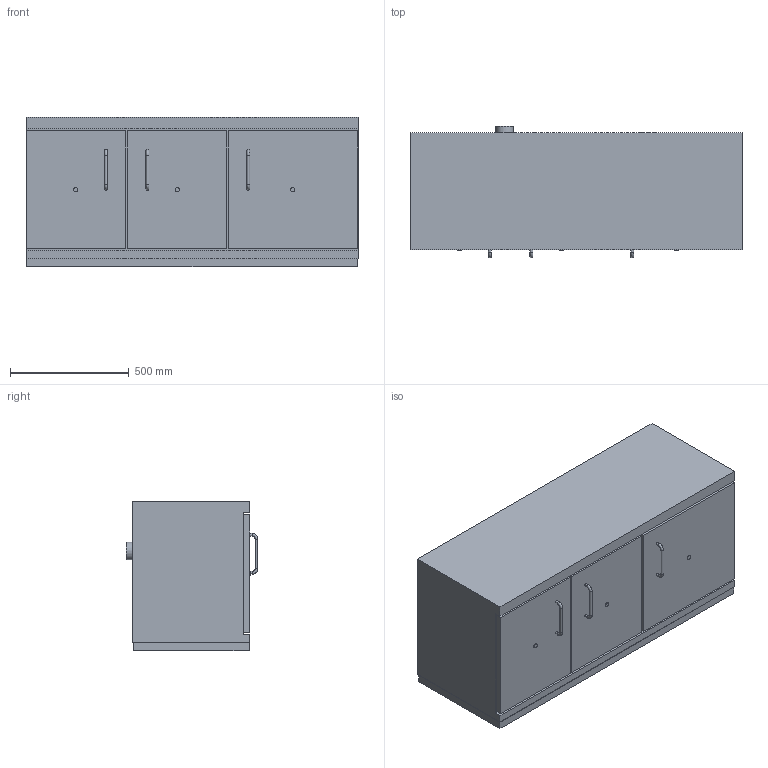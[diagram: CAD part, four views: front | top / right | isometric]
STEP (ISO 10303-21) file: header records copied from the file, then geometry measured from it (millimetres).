
FILE_DESCRIPTION(/* description */ ('Unknown'),/* implementation_level */ '2;1');
FILE_NAME(/* name */ '29-061457_VDK',/* time_stamp */ '2019-04-10T11:53:22+02:00',/* author */ ('Unknown'),/* organization */ ('Unknown'),/* preprocessor_version */ 'ST-DEVELOPER v16.7',/* originating_system */ 'DEX',/* authorisation */ $);
FILE_SCHEMA (('AUTOMOTIVE_DESIGN {1 0 10303 214 3 1 1}'));
Length unit declared in the file: millimetre
Products named in the file (1): 29-061457_VDK
Bounding box: 1400 x 556 x 631 mm (x, y, z)
Volume: 434781040.4 mm3; surface area: 3998722.7 mm2
Topology: 1 solids, 1 shells, 55 faces, 129 edges, 85 vertices
Faces by surface type: plane 35, cylinder 14, torus 6
Full cylindrical faces by diameter (mm): 12 x9, 18 x3, 75 x2
Entity records: 1809 total; most frequent: DIRECTION 240, CARTESIAN_POINT 232, ORIENTED_EDGE 200, EDGE_CURVE 100, EDGE_LOOP 90, FACE_BOUND 90, AXIS2_PLACEMENT_3D 84, VERTEX_POINT 76
